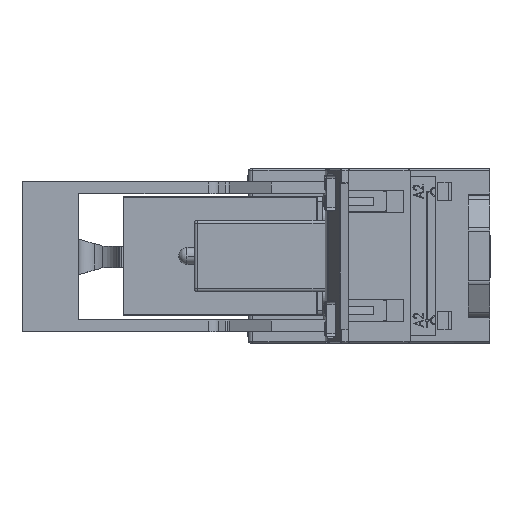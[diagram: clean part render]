
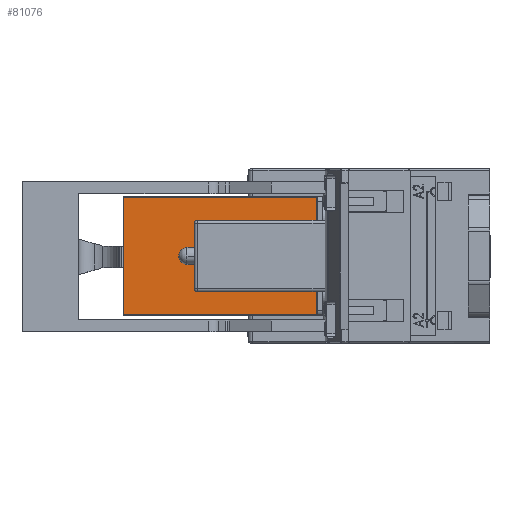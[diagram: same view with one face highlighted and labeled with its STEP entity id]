
A CAD part, left-side view. The second image highlights one B-rep face of the part: STEP entity #81076.
In plain terms, the highlighted planar face has unit normal (-1, 0, 0).
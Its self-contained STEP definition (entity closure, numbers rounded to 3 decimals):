
#94 = DIRECTION ( 'NONE',  ( 0., 0., 1. ) ) ;
#1537 = EDGE_CURVE ( 'NONE', #218602, #200641, #155251, .T. ) ;
#4115 = ORIENTED_EDGE ( 'NONE', *, *, #1537, .F. ) ;
#8890 = DIRECTION ( 'NONE',  ( 0., -1., 0. ) ) ;
#24331 = CARTESIAN_POINT ( 'NONE',  ( -13.2, 34.966, 10.249 ) ) ;
#26670 = ORIENTED_EDGE ( 'NONE', *, *, #37631, .F. ) ;
#27640 = CARTESIAN_POINT ( 'NONE',  ( -13.2, 34.966, 10.449 ) ) ;
#29850 = LINE ( 'NONE', #82310, #174441 ) ;
#37631 = EDGE_CURVE ( 'NONE', #135383, #218602, #29850, .T. ) ;
#42256 = VERTEX_POINT ( 'NONE', #65519 ) ;
#49283 = EDGE_CURVE ( 'NONE', #135383, #42256, #213314, .T. ) ;
#60613 = CARTESIAN_POINT ( 'NONE',  ( -13.2, 34.966, -10.351 ) ) ;
#64768 = CARTESIAN_POINT ( 'NONE',  ( -13.2, 0.966, -10.351 ) ) ;
#65519 = CARTESIAN_POINT ( 'NONE',  ( -13.2, 0.966, 10.249 ) ) ;
#81076 = ADVANCED_FACE ( 'NONE', ( #112475 ), #97955, .F. ) ;
#82310 = CARTESIAN_POINT ( 'NONE',  ( -13.2, 34.966, -10.351 ) ) ;
#86063 = CARTESIAN_POINT ( 'NONE',  ( -13.2, 34.966, -10.551 ) ) ;
#97955 = PLANE ( 'NONE',  #164572 ) ;
#97962 = DIRECTION ( 'NONE',  ( 0., 1., 0. ) ) ;
#98233 = VECTOR ( 'NONE', #210011, 1000. ) ;
#99149 = EDGE_LOOP ( 'NONE', ( #178905, #4115, #26670, #186079 ) ) ;
#108328 = CARTESIAN_POINT ( 'NONE',  ( -13.2, 34.966, 10.249 ) ) ;
#112475 = FACE_OUTER_BOUND ( 'NONE', #99149, .T. ) ;
#114410 = VECTOR ( 'NONE', #94, 1000. ) ;
#135383 = VERTEX_POINT ( 'NONE', #64768 ) ;
#136997 = VECTOR ( 'NONE', #8890, 1000. ) ;
#155251 = LINE ( 'NONE', #86063, #114410 ) ;
#164572 = AXIS2_PLACEMENT_3D ( 'NONE', #27640, #200621, #201712 ) ;
#174441 = VECTOR ( 'NONE', #97962, 1000. ) ;
#178715 = CARTESIAN_POINT ( 'NONE',  ( -13.2, 0.966, -10.551 ) ) ;
#178905 = ORIENTED_EDGE ( 'NONE', *, *, #189960, .F. ) ;
#186079 = ORIENTED_EDGE ( 'NONE', *, *, #49283, .T. ) ;
#189960 = EDGE_CURVE ( 'NONE', #200641, #42256, #193160, .T. ) ;
#193160 = LINE ( 'NONE', #108328, #136997 ) ;
#200621 = DIRECTION ( 'NONE',  ( 1., 0., 0. ) ) ;
#200641 = VERTEX_POINT ( 'NONE', #24331 ) ;
#201712 = DIRECTION ( 'NONE',  ( 0., 0., -1. ) ) ;
#210011 = DIRECTION ( 'NONE',  ( 0., 0., 1. ) ) ;
#213314 = LINE ( 'NONE', #178715, #98233 ) ;
#218602 = VERTEX_POINT ( 'NONE', #60613 ) ;
